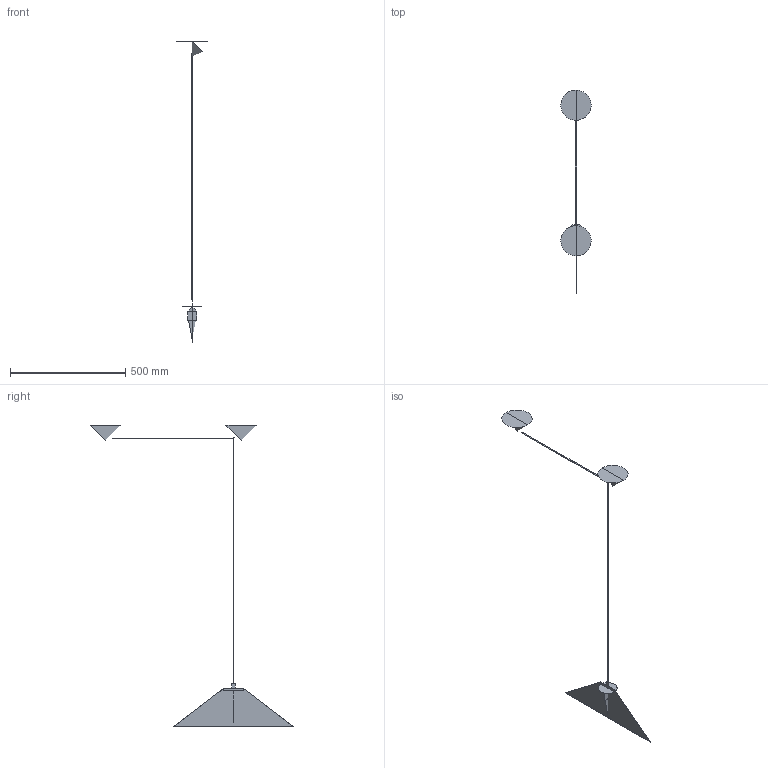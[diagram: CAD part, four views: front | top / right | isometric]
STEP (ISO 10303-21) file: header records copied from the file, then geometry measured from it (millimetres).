
FILE_DESCRIPTION(/* description */ (''),/* implementation_level */ '2;1');
FILE_NAME(/* name */ 'aggregato decen d52',/* time_stamp */ '2016-04-29T16:28:34+02:00',/* author */ (''),/* organization */ (''),/* preprocessor_version */ 'ST-DEVELOPER v15',/* originating_system */ '',/* authorisation */ '');
FILE_SCHEMA (('AUTOMOTIVE_DESIGN'));
Length unit declared in the file: millimetre
Products named in the file (2): Document; Blocco 06
Assembly tree (1 placements, depth 2):
  Document
    Blocco 06
Bounding box: 131.4 x 884.19 x 1311.82 mm (x, y, z)
Surface area: 680281 mm2 (no closed solid volume)
Topology: 0 solids, 39 shells, 39 faces, 160 edges, 154 vertices
Faces by surface type: bspline 28, plane 11
Entity records: 2114 total; most frequent: CARTESIAN_POINT 1312, ORIENTED_EDGE 146, EDGE_CURVE 146, VERTEX_POINT 146, PRESENTATION_LAYER_ASSIGNMENT 47, SHELL_BASED_SURFACE_MODEL 39, OPEN_SHELL 39, ADVANCED_FACE 39
